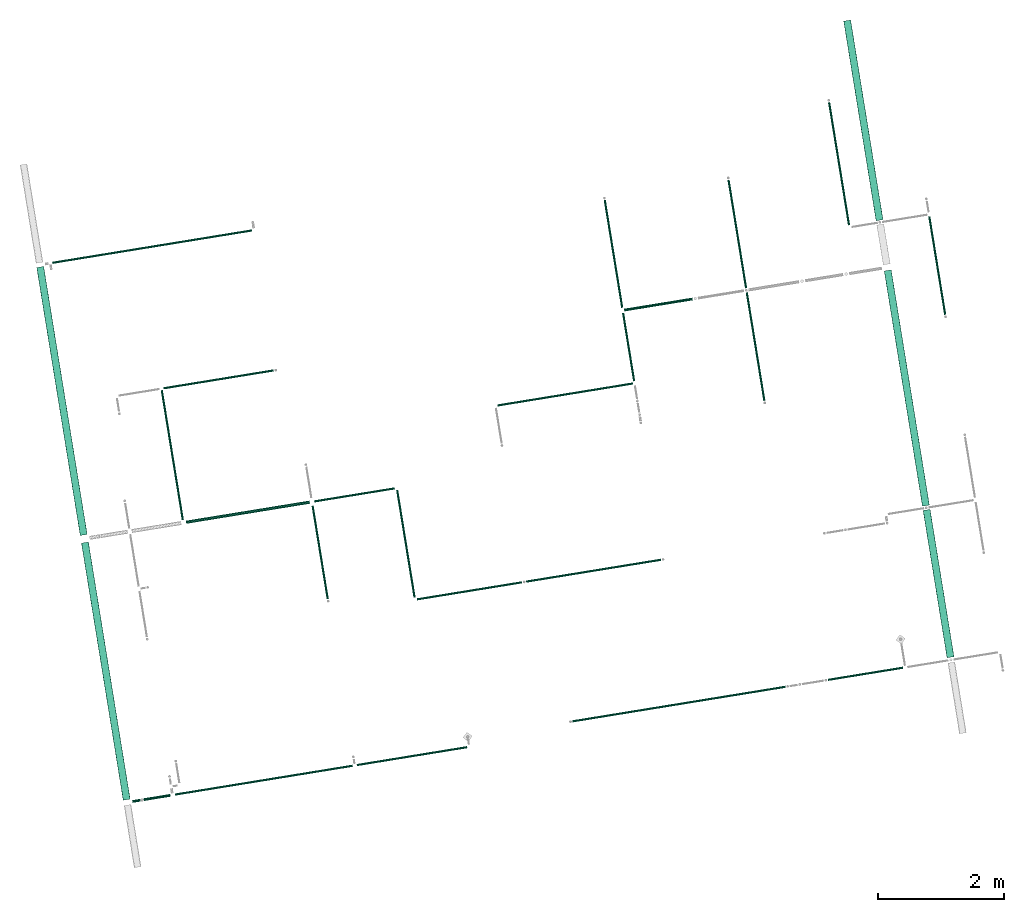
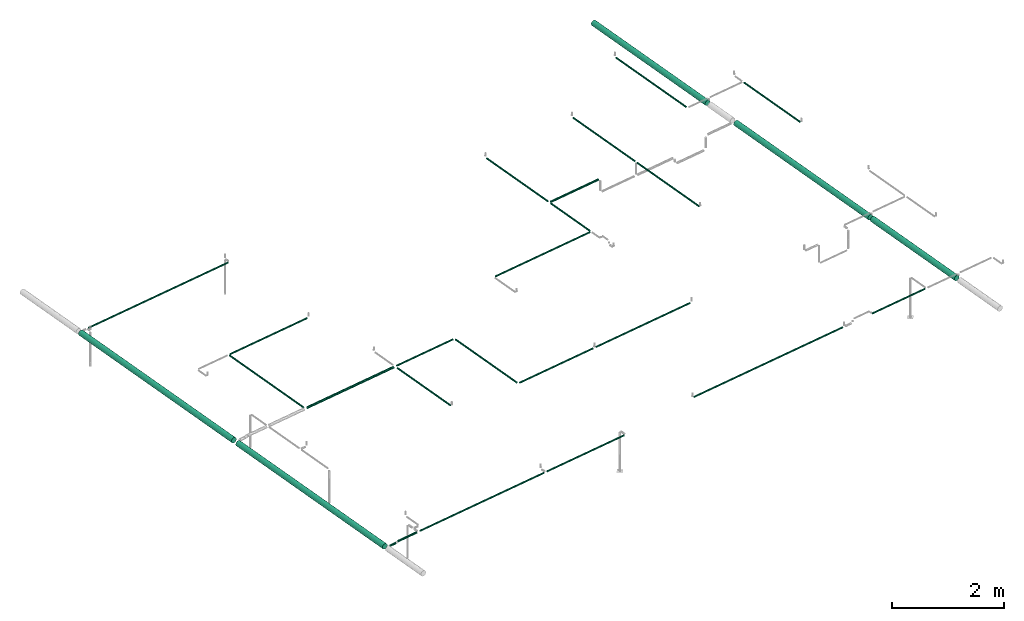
# One storey, part 1 of 11: 28 flow segments.
"""IFC2X3 building model written with IfcOpenShell, lengths in millimetres."""

from ifc_helpers import new_model, entity, si_unit, converted_unit, derived_unit, direction, frame, frame_2d, origin, origin_with_axes, origin_2d_with_axis, place, context, subcontext, project, spatial, circle, extrude, type_object, element, save


model = new_model("IFC2X3")

# Units and contexts
model_context = context("Model", 3, precision=0.01, world=origin(), true_north=direction((6.12323399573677e-17, 1.0)))
plan_context = context("Plan", 3, precision=1e-05, world=origin_with_axes())
body_context = subcontext(model_context, "Body", "Model", "MODEL_VIEW")
ifc_project = project(units=[converted_unit("PLANEANGLEUNIT", "DEGREE", entity("IfcPositiveLengthMeasure", 0.0174532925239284), si_unit("PLANEANGLEUNIT", "RADIAN"), dimensions=[0, 0, 0, 0, 0, 0, 0]), si_unit("AREAUNIT", "SQUARE_METRE"), si_unit("LENGTHUNIT", "METRE", prefix="MILLI"), si_unit("MASSUNIT", "GRAM", prefix="KILO"), si_unit("POWERUNIT", "WATT"), si_unit("PRESSUREUNIT", "PASCAL", prefix="KILO"), si_unit("FORCEUNIT", "NEWTON", prefix="KILO"), si_unit("ELECTRICVOLTAGEUNIT", "VOLT"), si_unit("ELECTRICCURRENTUNIT", "AMPERE"), si_unit("THERMODYNAMICTEMPERATUREUNIT", "DEGREE_CELSIUS"), si_unit("TIMEUNIT", "SECOND"), si_unit("VOLUMEUNIT", "CUBIC_METRE"), derived_unit("LINEARVELOCITYUNIT", [(si_unit("LENGTHUNIT", "METRE"), 1), (si_unit("TIMEUNIT", "SECOND"), -1)]), derived_unit("VOLUMETRICFLOWRATEUNIT", [(si_unit("VOLUMEUNIT", "CUBIC_METRE"), 1), (si_unit("TIMEUNIT", "SECOND"), -1)]), derived_unit("THERMALTRANSMITTANCEUNIT", [(si_unit("POWERUNIT", "WATT"), 1), (si_unit("THERMODYNAMICTEMPERATUREUNIT", "KELVIN"), -1), (si_unit("AREAUNIT", "SQUARE_METRE"), -1)]), derived_unit("SOUNDPRESSUREUNIT", [(si_unit("PRESSUREUNIT", "PASCAL"), 1)])], contexts=[model_context, plan_context])

# Site, building, storey
site_placement = place(None, frame((-0.00071070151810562, 0.00438415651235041, 0.0), z_axis=(0.0, 0.0, 1.0), x_axis=(-0.160236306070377, 0.987078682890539, 0.0)))
site = spatial("IfcSite", under=ifc_project, at=site_placement, Name="Default", CompositionType="ELEMENT")
building_placement = place(site_placement, origin_with_axes())
building = spatial("IfcBuilding", under=site, at=building_placement, CompositionType="ELEMENT")
storey_placement = place(building_placement, frame((0.0, 0.0, 50999.9999999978), z_axis=(0.0, 0.0, 1.0), x_axis=(1.0, 0.0, 0.0)))
storey = spatial("IfcBuildingStorey", under=building, at=storey_placement, Name="Nivå D", CompositionType="ELEMENT", Elevation=50999.9999999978)

# Flow segments
pipe_segment_type = type_object("IfcPipeSegmentType", Name="Pipe Types:Stålrør normaltykke", PredefinedType="NOTDEFINED")
flow_segment_1_placement = place(storey_placement, origin_with_axes())
element("IfcFlowSegment", 1, at=flow_segment_1_placement, inside=storey, type_object=pipe_segment_type, Name="Pipe Types:Stålrør normaltykke", ObjectType="Pipe Types:Stålrør normaltykke", context=body_context, shape_type="SweptSolid", body=[
    extrude(circle(Radius=57.1500016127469, at=origin_2d_with_axis()), frame((776952.639184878, -602942.60820948, 3300.0), z_axis=(1.0, 0.0, 0.0), x_axis=(0.0, -1.0, 0.0)), (0.0, 0.0, 1.0), 3218.68045918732),
])
flow_segment_2_placement = place(storey_placement, origin_with_axes())
element("IfcFlowSegment", 2, at=flow_segment_2_placement, inside=storey, type_object=pipe_segment_type, Name="Pipe Types:Stålrør normaltykke", ObjectType="Pipe Types:Stålrør normaltykke", context=body_context, shape_type="SweptSolid", body=[
    extrude(circle(Radius=16.8500004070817, at=origin_2d_with_axis()), frame((778392.86126993, -593058.167000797, 3412.00010024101), z_axis=(0.0, 1.0, 0.0), x_axis=(-1.0, 0.0, 0.0)), (0.0, 0.0, 1.0), 3216.90282854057),
])
flow_segment_3_placement = place(storey_placement, origin_with_axes())
element("IfcFlowSegment", 3, at=flow_segment_3_placement, inside=storey, type_object=pipe_segment_type, Name="Pipe Types:Stålrør normaltykke", ObjectType="Pipe Types:Stålrør normaltykke", context=body_context, shape_type="SweptSolid", body=[
    extrude(circle(Radius=57.1500016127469, at=origin_2d_with_axis()), frame((774038.019652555, -589639.981738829, 3412.00010024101), z_axis=(1.0, 0.0, 0.0), x_axis=(0.0, 1.0, 0.0)), (0.0, 0.0, 1.0), 4321.04161737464),
])
flow_segment_4_placement = place(storey_placement, origin_with_axes())
element("IfcFlowSegment", 4, at=flow_segment_4_placement, inside=storey, type_object=pipe_segment_type, Name="Pipe Types:Stålrør normaltykke", ObjectType="Pipe Types:Stålrør normaltykke", context=body_context, shape_type="SweptSolid", body=[
    extrude(circle(Radius=16.8500004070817, at=frame_2d((0.0, 8.66293703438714e-12), x_axis=(1.0, 0.0))), frame((769865.119652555, -600275.68173883, 3430.0), z_axis=(0.0, 1.0, 0.0), x_axis=(-1.0, 0.0, 0.0)), (0.0, 0.0, 1.0), 3432.39999999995),
])
flow_segment_5_placement = place(storey_placement, origin_with_axes())
element("IfcFlowSegment", 5, at=flow_segment_5_placement, inside=storey, type_object=pipe_segment_type, Name="Pipe Types:Stålrør normaltykke", ObjectType="Pipe Types:Stålrør normaltykke", context=body_context, shape_type="SweptSolid", body=[
    extrude(circle(Radius=21.2000007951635, at=origin_2d_with_axis()), frame((769728.389509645, -590337.757105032, 3430.0), z_axis=(0.0, 1.0, 0.0), x_axis=(1.0, 0.0, 0.0)), (0.0, 0.0, 1.0), 430.71432044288),
])
flow_segment_6_placement = place(storey_placement, origin_with_axes())
element("IfcFlowSegment", 6, at=flow_segment_6_placement, inside=storey, type_object=pipe_segment_type, Name="Pipe Types:Stålrør normaltykke", ObjectType="Pipe Types:Stålrør normaltykke", context=body_context, shape_type="SweptSolid", body=[
    extrude(circle(Radius=16.8500004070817, at=origin_2d_with_axis()), frame((769728.389509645, -595121.598399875, 3430.0), z_axis=(0.0, 1.0, 0.0), x_axis=(1.0, 0.0, 0.0)), (0.0, 0.0, 1.0), 1778.31666104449),
])
flow_segment_7_placement = place(storey_placement, origin_with_axes())
element("IfcFlowSegment", 7, at=flow_segment_7_placement, inside=storey, type_object=pipe_segment_type, Name="Pipe Types:Stålrør normaltykke", ObjectType="Pipe Types:Stålrør normaltykke", context=body_context, shape_type="SweptSolid", body=[
    extrude(circle(Radius=21.2000007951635, at=origin_2d_with_axis()), frame((769728.389509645, -589853.143846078, 3412.00010024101), z_axis=(0.0, 1.0, 0.0), x_axis=(-1.0, 0.0, 0.0)), (0.0, 0.0, 1.0), 127.362107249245),
])
flow_segment_8_placement = place(storey_placement, origin_with_axes())
element("IfcFlowSegment", 8, at=flow_segment_8_placement, inside=storey, type_object=pipe_segment_type, Name="Pipe Types:Stålrør normaltykke", ObjectType="Pipe Types:Stålrør normaltykke", context=body_context, shape_type="SweptSolid", body=[
    extrude(circle(Radius=57.1500016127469, at=origin_2d_with_axis()), frame((769770.789509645, -589639.981738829, 3412.00010024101), z_axis=(1.0, 0.0, 0.0), x_axis=(0.0, 1.0, 0.0)), (0.0, 0.0, 1.0), 4146.43014291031),
])
flow_segment_9_placement = place(storey_placement, origin_with_axes())
element("IfcFlowSegment", 9, at=flow_segment_9_placement, inside=storey, type_object=pipe_segment_type, Name="Pipe Types:Stålrør normaltykke", ObjectType="Pipe Types:Stålrør normaltykke", context=body_context, shape_type="SweptSolid", body=[
    extrude(circle(Radius=16.8500004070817, at=origin_2d_with_axis()), frame((769728.389509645, -593275.68173883, 3430.0), z_axis=(0.0, 1.0, 0.0), x_axis=(1.0, 0.0, 0.0)), (0.0, 0.0, 1.0), 2861.72463379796),
])
flow_segment_10_placement = place(storey_placement, origin_with_axes())
element("IfcFlowSegment", 10, at=flow_segment_10_placement, inside=storey, type_object=pipe_segment_type, Name="Pipe Types:Stålrør normaltykke", ObjectType="Pipe Types:Stålrør normaltykke", context=body_context, shape_type="SweptSolid", body=[
    extrude(circle(Radius=16.8500004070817, at=frame_2d((0.0, 8.66293703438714e-12), x_axis=(1.0, 0.0))), frame((769865.119652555, -602170.912231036, 3430.0), z_axis=(0.0, 1.0, 0.0), x_axis=(-1.0, 0.0, 0.0)), (0.0, 0.0, 1.0), 1211.6308264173),
])
flow_segment_11_placement = place(storey_placement, origin_with_axes())
element("IfcFlowSegment", 11, at=flow_segment_11_placement, inside=storey, type_object=pipe_segment_type, Name="Pipe Types:Stålrør normaltykke", ObjectType="Pipe Types:Stålrør normaltykke", context=body_context, shape_type="SweptSolid", body=[
    extrude(circle(Radius=16.8500004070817, at=frame_2d((0.0, -8.66293703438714e-12), x_axis=(1.0, 0.0))), frame((772177.619652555, -596403.380498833, 3429.99938722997), z_axis=(0.0, 1.0, 0.0), x_axis=(1.0, 0.0, 0.0)), (0.0, 0.0, 1.0), 1692.10000000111),
])
flow_segment_12_placement = place(storey_placement, origin_with_axes())
element("IfcFlowSegment", 12, at=flow_segment_12_placement, inside=storey, type_object=pipe_segment_type, Name="Pipe Types:Stålrør normaltykke", ObjectType="Pipe Types:Stålrør normaltykke", context=body_context, shape_type="SweptSolid", body=[
    extrude(circle(Radius=16.8500004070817, at=frame_2d((0.0, -8.66293703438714e-12), x_axis=(1.0, 0.0))), frame((772177.619652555, -598643.680498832, 3429.99938722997), z_axis=(0.0, 1.0, 0.0), x_axis=(1.0, 0.0, 0.0)), (0.0, 0.0, 1.0), 2172.69999999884),
])
flow_segment_13_placement = place(storey_placement, origin_with_axes())
element("IfcFlowSegment", 13, at=flow_segment_13_placement, inside=storey, type_object=pipe_segment_type, Name="Pipe Types:Stålrør normaltykke", ObjectType="Pipe Types:Stålrør normaltykke", context=body_context, shape_type="SweptSolid", body=[
    extrude(circle(Radius=57.1500016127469, at=origin_2d_with_axis()), frame((772351.41964884, -602942.60820948, 3300.0), z_axis=(1.0, 0.0, 0.0), x_axis=(0.0, -1.0, 0.0)), (0.0, 0.0, 1.0), 3792.79999522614),
])
flow_segment_14_placement = place(storey_placement, origin_with_axes())
element("IfcFlowSegment", 14, at=flow_segment_14_placement, inside=storey, type_object=pipe_segment_type, Name="Pipe Types:Stålrør normaltykke", ObjectType="Pipe Types:Stålrør normaltykke", context=body_context, shape_type="SweptSolid", body=[
    extrude(circle(Radius=16.8500004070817, at=frame_2d((6.93034962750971e-11, 8.66293703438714e-12), x_axis=(1.0, 0.0))), frame((774411.419648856, -600672.905078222, 3430.0), z_axis=(1.0, 0.0, 0.0), x_axis=(0.0, 1.0, 0.0)), (0.0, 0.0, 1.0), 1747.3999952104),
])
flow_segment_15_placement = place(storey_placement, origin_with_axes())
element("IfcFlowSegment", 15, at=flow_segment_15_placement, inside=storey, type_object=pipe_segment_type, Name="Pipe Types:Stålrør normaltykke", ObjectType="Pipe Types:Stålrør normaltykke", context=body_context, shape_type="SweptSolid", body=[
    extrude(circle(Radius=16.8500004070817, at=frame_2d((0.0, 8.66293703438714e-12), x_axis=(1.0, 0.0))), frame((776226.419644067, -600672.905078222, 3430.0), z_axis=(1.0, 0.0, 0.0), x_axis=(0.0, 1.0, 0.0)), (0.0, 0.0, 1.0), 1742.40000476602),
])
flow_segment_16_placement = place(storey_placement, origin_with_axes())
element("IfcFlowSegment", 16, at=flow_segment_16_placement, inside=storey, type_object=pipe_segment_type, Name="Pipe Types:Stålrør normaltykke", ObjectType="Pipe Types:Stålrør normaltykke", context=body_context, shape_type="SweptSolid", body=[
    extrude(circle(Radius=16.8500004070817, at=origin_2d_with_axis()), frame((776235.019644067, -598677.480498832, 3430.0), z_axis=(1.0, 0.0, 0.0), x_axis=(0.0, -1.0, 0.0)), (0.0, 0.0, 1.0), 1733.80000706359),
])
flow_segment_17_placement = place(storey_placement, origin_with_axes())
element("IfcFlowSegment", 17, at=flow_segment_17_placement, inside=storey, type_object=pipe_segment_type, Name="Pipe Types:Stålrør normaltykke", ObjectType="Pipe Types:Stålrør normaltykke", context=body_context, shape_type="SweptSolid", body=[
    extrude(circle(Radius=21.2000007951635, at=origin_2d_with_axis()), frame((776192.619644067, -599805.121867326, 3430.0), z_axis=(0.0, 1.0, 0.0), x_axis=(-1.0, 0.0, 0.0)), (0.0, 0.0, 1.0), 1102.29136849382),
])
flow_segment_18_placement = place(storey_placement, origin_with_axes())
element("IfcFlowSegment", 18, at=flow_segment_18_placement, inside=storey, type_object=pipe_segment_type, Name="Pipe Types:Stålrør normaltykke", ObjectType="Pipe Types:Stålrør normaltykke", context=body_context, shape_type="SweptSolid", body=[
    extrude(circle(Radius=16.8500004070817, at=origin_2d_with_axis()), frame((775051.419652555, -598677.480498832, 3430.0), z_axis=(1.0, 0.0, 0.0), x_axis=(0.0, -1.0, 0.0)), (0.0, 0.0, 1.0), 1098.79999151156),
])
flow_segment_19_placement = place(storey_placement, origin_with_axes())
element("IfcFlowSegment", 19, at=flow_segment_19_placement, inside=storey, type_object=pipe_segment_type, Name="Pipe Types:Stålrør normaltykke", ObjectType="Pipe Types:Stålrør normaltykke", context=body_context, shape_type="SweptSolid", body=[
    extrude(circle(Radius=16.8500004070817, at=origin_2d_with_axis()), frame((775017.619652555, -598652.130498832, 3430.0), z_axis=(0.0, 1.0, 0.0), x_axis=(1.0, 0.0, 0.0)), (0.0, 0.0, 1.0), 2181.14999999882),
])
flow_segment_20_placement = place(storey_placement, origin_with_axes())
element("IfcFlowSegment", 20, at=flow_segment_20_placement, inside=storey, type_object=pipe_segment_type, Name="Pipe Types:Stålrør normaltykke", ObjectType="Pipe Types:Stålrør normaltykke", context=body_context, shape_type="SweptSolid", body=[
    extrude(circle(Radius=16.8500004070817, at=frame_2d((0.0, -8.66293703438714e-12), x_axis=(1.0, 0.0))), frame((772211.419652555, -594677.480498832, 3429.99938722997), z_axis=(1.0, 0.0, 0.0), x_axis=(0.0, -1.0, 0.0)), (0.0, 0.0, 1.0), 1732.40000000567),
])
flow_segment_21_placement = place(storey_placement, origin_with_axes())
element("IfcFlowSegment", 21, at=flow_segment_21_placement, inside=storey, type_object=pipe_segment_type, Name="Pipe Types:Stålrør normaltykke", ObjectType="Pipe Types:Stålrør normaltykke", context=body_context, shape_type="SweptSolid", body=[
    extrude(circle(Radius=16.8500004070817, at=origin_2d_with_axis()), frame((772411.419648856, -593309.481738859, 3430.0), z_axis=(1.0, 0.0, 0.0), x_axis=(0.0, -1.0, 0.0)), (0.0, 0.0, 1.0), 1503.20000373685),
])
flow_segment_22_placement = place(storey_placement, origin_with_axes())
element("IfcFlowSegment", 22, at=flow_segment_22_placement, inside=storey, type_object=pipe_segment_type, Name="Pipe Types:Stålrør normaltykke", ObjectType="Pipe Types:Stålrør normaltykke", context=body_context, shape_type="SweptSolid", body=[
    extrude(circle(Radius=16.8500004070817, at=origin_2d_with_axis()), frame((773977.619652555, -594643.680498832, 3430.0), z_axis=(0.0, 1.0, 0.0), x_axis=(1.0, 0.0, 0.0)), (0.0, 0.0, 1.0), 1297.8987599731),
])
flow_segment_23_placement = place(storey_placement, origin_with_axes())
element("IfcFlowSegment", 23, at=flow_segment_23_placement, inside=storey, type_object=pipe_segment_type, Name="Pipe Types:Stålrør normaltykke", ObjectType="Pipe Types:Stålrør normaltykke", context=body_context, shape_type="SweptSolid", body=[
    extrude(circle(Radius=16.8500004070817, at=frame_2d((0.0, 8.66293703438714e-12), x_axis=(1.0, 0.0))), frame((776138.869652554, -593043.055808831, 3430.0), z_axis=(0.0, 1.0, 0.0), x_axis=(-1.0, 0.0, 0.0)), (0.0, 0.0, 1.0), 1774.18881528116),
])
flow_segment_24_placement = place(storey_placement, origin_with_axes())
element("IfcFlowSegment", 24, at=flow_segment_24_placement, inside=storey, type_object=pipe_segment_type, Name="Pipe Types:Stålrør normaltykke", ObjectType="Pipe Types:Stålrør normaltykke", context=body_context, shape_type="SweptSolid", body=[
    extrude(circle(Radius=16.8500004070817, at=origin_2d_with_axis()), frame((774022.919652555, -591235.06699355, 3430.0), z_axis=(1.0, 0.0, 0.0), x_axis=(0.0, -1.0, 0.0)), (0.0, 0.0, 1.0), 2090.59999999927),
])
flow_segment_25_placement = place(storey_placement, origin_with_axes())
element("IfcFlowSegment", 25, at=flow_segment_25_placement, inside=storey, type_object=pipe_segment_type, Name="Pipe Types:Stålrør normaltykke", ObjectType="Pipe Types:Stålrør normaltykke", context=body_context, shape_type="SweptSolid", body=[
    extrude(circle(Radius=24.1499996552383, at=origin_2d_with_axis()), frame((773977.619652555, -593273.181738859, 3430.0), z_axis=(0.0, 1.0, 0.0), x_axis=(1.0, 0.0, 0.0)), (0.0, 0.0, 1.0), 1992.31474530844),
])
flow_segment_26_placement = place(storey_placement, origin_with_axes())
element("IfcFlowSegment", 26, at=flow_segment_26_placement, inside=storey, type_object=pipe_segment_type, Name="Pipe Types:Stålrør normaltykke", ObjectType="Pipe Types:Stålrør normaltykke", context=body_context, shape_type="SweptSolid", body=[
    extrude(circle(Radius=16.8500004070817, at=frame_2d((0.0, 8.66293703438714e-12), x_axis=(1.0, 0.0))), frame((775301.419648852, -603732.480498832, 3430.0), z_axis=(1.0, 0.0, 0.0), x_axis=(0.0, 1.0, 0.0)), (0.0, 0.0, 1.0), 1583.61953602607),
])
flow_segment_27_placement = place(storey_placement, origin_with_axes())
element("IfcFlowSegment", 27, at=flow_segment_27_placement, inside=storey, type_object=pipe_segment_type, Name="Pipe Types:Stålrør normaltykke", ObjectType="Pipe Types:Stålrør normaltykke", context=body_context, shape_type="SweptSolid", body=[
    extrude(circle(Radius=57.1500016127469, at=origin_2d_with_axis()), frame((769907.519652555, -602942.60820948, 3300.0), z_axis=(1.0, 0.0, 0.0), x_axis=(0.0, -1.0, 0.0)), (0.0, 0.0, 1.0), 2376.29999628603),
])
flow_segment_28_placement = place(storey_placement, origin_with_axes())
element("IfcFlowSegment", 28, at=flow_segment_28_placement, inside=storey, type_object=pipe_segment_type, Name="Pipe Types:Stålrør normaltykke", ObjectType="Pipe Types:Stålrør normaltykke", context=body_context, shape_type="SweptSolid", body=[
    extrude(circle(Radius=16.8500004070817, at=origin_2d_with_axis()), frame((776952.639184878, -602450.25198008, 3430.0), z_axis=(1.0, 0.0, 0.0), x_axis=(0.0, -1.0, 0.0)), (0.0, 0.0, 1.0), 1980.59698689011),
])

save(model, "model.ifc")
